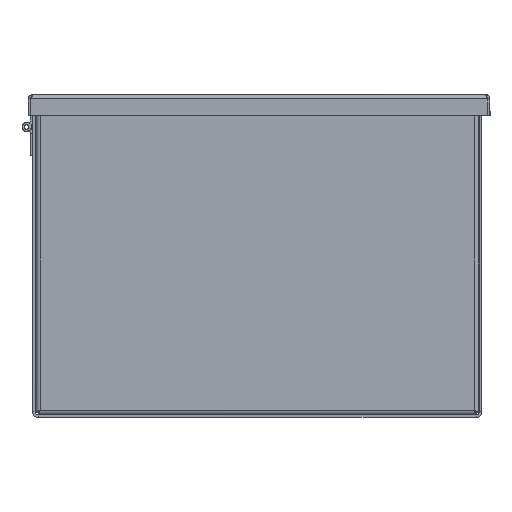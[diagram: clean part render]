
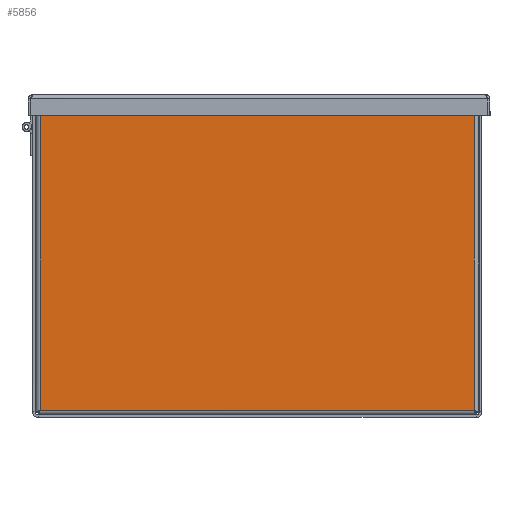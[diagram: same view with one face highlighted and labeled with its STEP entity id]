
A CAD part, front view. The second image highlights one B-rep face of the part: STEP entity #5856.
In plain terms, the highlighted planar face has unit normal (0, -1, 0) as drawn and (0, 1, 0) by its records, which use the part's own axes.
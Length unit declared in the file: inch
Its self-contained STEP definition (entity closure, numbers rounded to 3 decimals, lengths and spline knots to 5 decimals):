
#955 = VERTEX_POINT ( 'NONE', #1264 ) ;
#956 = VERTEX_POINT ( 'NONE', #1263 ) ;
#958 = EDGE_CURVE ( 'NONE', #955, #956, #1262, .T. ) ;
#1014 = EDGE_CURVE ( 'NONE', #1021, #1126, #1441, .T. ) ;
#1021 = VERTEX_POINT ( 'NONE', #1426 ) ;
#1126 = VERTEX_POINT ( 'NONE', #1757 ) ;
#1259 = DIRECTION ( 'NONE',  ( 0., 0., -1. ) ) ;
#1260 = VECTOR ( 'NONE', #1259, 39.37008 ) ;
#1261 = CARTESIAN_POINT ( 'NONE',  ( 5.43, 0.055, 4.2075 ) ) ;
#1262 = LINE ( 'NONE', #1261, #1260 ) ;
#1263 = CARTESIAN_POINT ( 'NONE',  ( 5.43, 0.055, 4.1475 ) ) ;
#1264 = CARTESIAN_POINT ( 'NONE',  ( 5.43, 0.055, 4.2075 ) ) ;
#1426 = CARTESIAN_POINT ( 'NONE',  ( -5.43, 0.055, 4.1475 ) ) ;
#1438 = DIRECTION ( 'NONE',  ( 0., 0., 1. ) ) ;
#1439 = VECTOR ( 'NONE', #1438, 39.37008 ) ;
#1440 = CARTESIAN_POINT ( 'NONE',  ( -5.43, 0.055, 4.2075 ) ) ;
#1441 = LINE ( 'NONE', #1440, #1439 ) ;
#1757 = CARTESIAN_POINT ( 'NONE',  ( -5.43, 0.055, 4.2075 ) ) ;
#3664 = DIRECTION ( 'NONE',  ( 1., 0., 0. ) ) ;
#3665 = VECTOR ( 'NONE', #3664, 39.37008 ) ;
#3666 = CARTESIAN_POINT ( 'NONE',  ( -5.912, 0.055, 4.2075 ) ) ;
#3667 = LINE ( 'NONE', #3666, #3665 ) ;
#3668 = DIRECTION ( 'NONE',  ( 0., 0., -1. ) ) ;
#3669 = VECTOR ( 'NONE', #3668, 39.37008 ) ;
#3670 = CARTESIAN_POINT ( 'NONE',  ( 5.797, 0.055, 4.2075 ) ) ;
#3671 = LINE ( 'NONE', #3670, #3669 ) ;
#3675 = CARTESIAN_POINT ( 'NONE',  ( 5.797, 0.055, 4.2075 ) ) ;
#3688 = CARTESIAN_POINT ( 'NONE',  ( 5.797, 0.055, -4.0925 ) ) ;
#3714 = DIRECTION ( 'NONE',  ( 1., 0., 0. ) ) ;
#3715 = VECTOR ( 'NONE', #3714, 39.37008 ) ;
#3716 = CARTESIAN_POINT ( 'NONE',  ( -5.43, 0.055, 4.1475 ) ) ;
#3717 = DIRECTION ( 'NONE',  ( 0., 0., -1. ) ) ;
#3718 = DIRECTION ( 'NONE',  ( 0., -1., 0. ) ) ;
#3719 = CARTESIAN_POINT ( 'NONE',  ( -5.912, 0.055, 4.2075 ) ) ;
#3720 = AXIS2_PLACEMENT_3D ( 'NONE', #3719, #3718, #3717 ) ;
#3721 = PLANE ( 'NONE',  #3720 ) ;
#3722 = LINE ( 'NONE', #3716, #3715 ) ;
#3723 = FACE_OUTER_BOUND ( 'NONE', #5853, .T. ) ;
#3736 = CARTESIAN_POINT ( 'NONE',  ( -5.797, 0.055, -4.0925 ) ) ;
#3737 = CARTESIAN_POINT ( 'NONE',  ( -5.797, 0.055, 4.2075 ) ) ;
#3738 = DIRECTION ( 'NONE',  ( 1., 0., 0. ) ) ;
#3739 = VECTOR ( 'NONE', #3738, 39.37008 ) ;
#3740 = CARTESIAN_POINT ( 'NONE',  ( -5.912, 0.055, 4.2075 ) ) ;
#3746 = LINE ( 'NONE', #3740, #3739 ) ;
#3752 = DIRECTION ( 'NONE',  ( 0., 0., 1. ) ) ;
#3753 = VECTOR ( 'NONE', #3752, 39.37008 ) ;
#3754 = CARTESIAN_POINT ( 'NONE',  ( -5.797, 0.055, -4.14543 ) ) ;
#3755 = LINE ( 'NONE', #3754, #3753 ) ;
#3783 = DIRECTION ( 'NONE',  ( -1., 0., 0. ) ) ;
#3784 = VECTOR ( 'NONE', #3783, 39.37008 ) ;
#3785 = CARTESIAN_POINT ( 'NONE',  ( 5.84993, 0.055, -4.0925 ) ) ;
#3786 = LINE ( 'NONE', #3785, #3784 ) ;
#4082 = VERTEX_POINT ( 'NONE', #3688 ) ;
#5096 = VERTEX_POINT ( 'NONE', #3675 ) ;
#5097 = EDGE_CURVE ( 'NONE', #5096, #4082, #3671, .T. ) ;
#5098 = ORIENTED_EDGE ( 'NONE', *, *, #5100, .T. ) ;
#5099 = ORIENTED_EDGE ( 'NONE', *, *, #5097, .T. ) ;
#5100 = EDGE_CURVE ( 'NONE', #955, #5096, #3667, .T. ) ;
#5101 = ORIENTED_EDGE ( 'NONE', *, *, #958, .F. ) ;
#5852 = ORIENTED_EDGE ( 'NONE', *, *, #5857, .T. ) ;
#5853 = EDGE_LOOP ( 'NONE', ( #5855, #5852, #5101, #5098, #5099, #6626, #6621, #6618 ) ) ;
#5855 = ORIENTED_EDGE ( 'NONE', *, *, #1014, .F. ) ;
#5856 = ADVANCED_FACE ( 'NONE', ( #3723 ), #3721, .F. ) ;
#5857 = EDGE_CURVE ( 'NONE', #1021, #956, #3722, .T. ) ;
#6615 = EDGE_CURVE ( 'NONE', #6622, #6620, #3755, .T. ) ;
#6618 = ORIENTED_EDGE ( 'NONE', *, *, #6619, .T. ) ;
#6619 = EDGE_CURVE ( 'NONE', #6620, #1126, #3746, .T. ) ;
#6620 = VERTEX_POINT ( 'NONE', #3737 ) ;
#6621 = ORIENTED_EDGE ( 'NONE', *, *, #6615, .T. ) ;
#6622 = VERTEX_POINT ( 'NONE', #3736 ) ;
#6626 = ORIENTED_EDGE ( 'NONE', *, *, #6631, .T. ) ;
#6631 = EDGE_CURVE ( 'NONE', #4082, #6622, #3786, .T. ) ;
